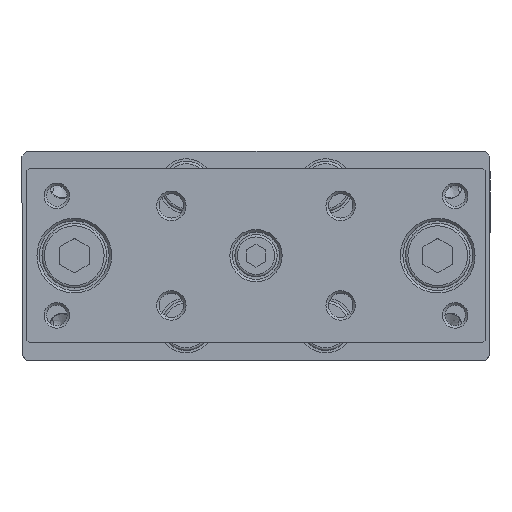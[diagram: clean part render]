
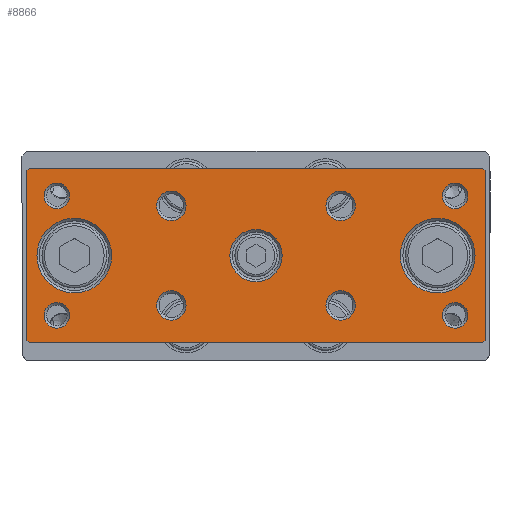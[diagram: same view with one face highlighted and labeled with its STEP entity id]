
A CAD part, top view. The second image highlights one B-rep face of the part: STEP entity #8866.
In plain terms, the highlighted planar face has unit normal (0, 0, 1).
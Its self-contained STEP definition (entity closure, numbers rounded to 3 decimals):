
#7566=CARTESIAN_POINT('',(42.976,19.784,98.2));
#7567=VERTEX_POINT('',#7566);
#7568=CARTESIAN_POINT('',(43.476,19.284,98.2));
#7569=VERTEX_POINT('',#7568);
#7570=CARTESIAN_POINT('',(42.976,19.784,98.2));
#7571=DIRECTION('',(0.707,-0.707,0.0));
#7572=VECTOR('',#7571,0.707);
#7573=LINE('',#7570,#7572);
#7574=EDGE_CURVE('',#7567,#7569,#7573,.T.);
#7708=CARTESIAN_POINT('',(-48.024,19.784,98.2));
#7709=VERTEX_POINT('',#7708);
#7718=CARTESIAN_POINT('',(42.976,19.784,98.2));
#7719=DIRECTION('',(-1.0,0.0,0.0));
#7720=VECTOR('',#7719,91.);
#7721=LINE('',#7718,#7720);
#7722=EDGE_CURVE('',#7567,#7709,#7721,.T.);
#7767=CARTESIAN_POINT('',(43.476,-14.716,98.2));
#7768=VERTEX_POINT('',#7767);
#7782=CARTESIAN_POINT('',(43.476,-14.716,98.2));
#7783=DIRECTION('',(0.0,1.0,0.0));
#7784=VECTOR('',#7783,34.0);
#7785=LINE('',#7782,#7784);
#7786=EDGE_CURVE('',#7768,#7569,#7785,.T.);
#7805=CARTESIAN_POINT('',(42.976,-15.216,98.2));
#7806=VERTEX_POINT('',#7805);
#7807=CARTESIAN_POINT('',(43.476,-14.716,98.2));
#7808=DIRECTION('',(-0.707,-0.707,0.0));
#7809=VECTOR('',#7808,0.707);
#7810=LINE('',#7807,#7809);
#7811=EDGE_CURVE('',#7768,#7806,#7810,.T.);
#7827=CARTESIAN_POINT('',(-48.024,-15.216,98.2));
#7828=VERTEX_POINT('',#7827);
#7829=CARTESIAN_POINT('',(-48.524,-14.716,98.2));
#7830=VERTEX_POINT('',#7829);
#7831=CARTESIAN_POINT('',(-48.024,-15.216,98.2));
#7832=DIRECTION('',(-0.707,0.707,0.0));
#7833=VECTOR('',#7832,0.707);
#7834=LINE('',#7831,#7833);
#7835=EDGE_CURVE('',#7828,#7830,#7834,.T.);
#7935=CARTESIAN_POINT('',(-48.024,-15.216,98.2));
#7936=DIRECTION('',(1.0,0.0,0.0));
#7937=VECTOR('',#7936,91.);
#7938=LINE('',#7935,#7937);
#7939=EDGE_CURVE('',#7828,#7806,#7938,.T.);
#8123=CARTESIAN_POINT('',(-48.524,19.284,98.2));
#8124=VERTEX_POINT('',#8123);
#8133=CARTESIAN_POINT('',(-48.524,19.284,98.2));
#8134=DIRECTION('',(0.0,-1.0,0.0));
#8135=VECTOR('',#8134,34.0);
#8136=LINE('',#8133,#8135);
#8137=EDGE_CURVE('',#8124,#7830,#8136,.T.);
#8149=CARTESIAN_POINT('',(-48.524,19.284,98.2));
#8150=DIRECTION('',(0.707,0.707,0.0));
#8151=VECTOR('',#8150,0.707);
#8152=LINE('',#8149,#8151);
#8153=EDGE_CURVE('',#8124,#7709,#8152,.T.);
#8208=CARTESIAN_POINT('',(2.726,2.284,98.2));
#8209=VERTEX_POINT('',#8208);
#8210=CARTESIAN_POINT('',(-2.524,2.284,98.2));
#8211=DIRECTION('',(0.0,0.0,1.0));
#8212=DIRECTION('',(-1.0,0.0,0.0));
#8213=AXIS2_PLACEMENT_3D('',#8210,#8211,#8212);
#8214=CIRCLE('',#8213,5.25);
#8215=EDGE_CURVE('',#8209,#8209,#8214,.T.);
#8269=CARTESIAN_POINT('',(-39.957,14.284,98.2));
#8270=VERTEX_POINT('',#8269);
#8271=CARTESIAN_POINT('',(-42.524,14.284,98.2));
#8272=DIRECTION('',(0.0,0.0,1.0));
#8273=DIRECTION('',(-1.0,0.0,0.0));
#8274=AXIS2_PLACEMENT_3D('',#8271,#8272,#8273);
#8275=CIRCLE('',#8274,2.567);
#8276=EDGE_CURVE('',#8270,#8270,#8275,.T.);
#8330=CARTESIAN_POINT('',(41.476,2.284,98.2));
#8331=VERTEX_POINT('',#8330);
#8332=CARTESIAN_POINT('',(33.976,2.284,98.2));
#8333=DIRECTION('',(0.0,0.0,1.0));
#8334=DIRECTION('',(-1.0,0.0,0.0));
#8335=AXIS2_PLACEMENT_3D('',#8332,#8333,#8334);
#8336=CIRCLE('',#8335,7.5);
#8337=EDGE_CURVE('',#8331,#8331,#8336,.T.);
#8391=CARTESIAN_POINT('',(-39.957,-9.716,98.2));
#8392=VERTEX_POINT('',#8391);
#8393=CARTESIAN_POINT('',(-42.524,-9.716,98.2));
#8394=DIRECTION('',(0.0,0.0,1.0));
#8395=DIRECTION('',(-1.0,0.0,0.0));
#8396=AXIS2_PLACEMENT_3D('',#8393,#8394,#8395);
#8397=CIRCLE('',#8396,2.567);
#8398=EDGE_CURVE('',#8392,#8392,#8397,.T.);
#8452=CARTESIAN_POINT('',(-31.524,2.284,98.2));
#8453=VERTEX_POINT('',#8452);
#8454=CARTESIAN_POINT('',(-39.024,2.284,98.2));
#8455=DIRECTION('',(0.0,0.0,1.0));
#8456=DIRECTION('',(-1.0,0.0,0.0));
#8457=AXIS2_PLACEMENT_3D('',#8454,#8455,#8456);
#8458=CIRCLE('',#8457,7.5);
#8459=EDGE_CURVE('',#8453,#8453,#8458,.T.);
#8513=CARTESIAN_POINT('',(40.043,-9.716,98.2));
#8514=VERTEX_POINT('',#8513);
#8515=CARTESIAN_POINT('',(37.476,-9.716,98.2));
#8516=DIRECTION('',(0.0,0.0,1.0));
#8517=DIRECTION('',(-1.0,0.0,0.0));
#8518=AXIS2_PLACEMENT_3D('',#8515,#8516,#8517);
#8519=CIRCLE('',#8518,2.567);
#8520=EDGE_CURVE('',#8514,#8514,#8519,.T.);
#8574=CARTESIAN_POINT('',(17.434,-7.716,98.2));
#8575=VERTEX_POINT('',#8574);
#8576=CARTESIAN_POINT('',(14.476,-7.716,98.2));
#8577=DIRECTION('',(0.0,0.0,1.0));
#8578=DIRECTION('',(-1.0,0.0,0.0));
#8579=AXIS2_PLACEMENT_3D('',#8576,#8577,#8578);
#8580=CIRCLE('',#8579,2.959);
#8581=EDGE_CURVE('',#8575,#8575,#8580,.T.);
#8635=CARTESIAN_POINT('',(40.043,14.284,98.2));
#8636=VERTEX_POINT('',#8635);
#8637=CARTESIAN_POINT('',(37.476,14.284,98.2));
#8638=DIRECTION('',(0.0,0.0,1.0));
#8639=DIRECTION('',(-1.0,0.0,0.0));
#8640=AXIS2_PLACEMENT_3D('',#8637,#8638,#8639);
#8641=CIRCLE('',#8640,2.567);
#8642=EDGE_CURVE('',#8636,#8636,#8641,.T.);
#8696=CARTESIAN_POINT('',(-16.566,-7.716,98.2));
#8697=VERTEX_POINT('',#8696);
#8698=CARTESIAN_POINT('',(-19.524,-7.716,98.2));
#8699=DIRECTION('',(0.0,0.0,1.0));
#8700=DIRECTION('',(-1.0,0.0,0.0));
#8701=AXIS2_PLACEMENT_3D('',#8698,#8699,#8700);
#8702=CIRCLE('',#8701,2.958);
#8703=EDGE_CURVE('',#8697,#8697,#8702,.T.);
#8757=CARTESIAN_POINT('',(-16.566,12.284,98.2));
#8758=VERTEX_POINT('',#8757);
#8759=CARTESIAN_POINT('',(-19.524,12.284,98.2));
#8760=DIRECTION('',(0.0,0.0,1.0));
#8761=DIRECTION('',(-1.0,0.0,0.0));
#8762=AXIS2_PLACEMENT_3D('',#8759,#8760,#8761);
#8763=CIRCLE('',#8762,2.958);
#8764=EDGE_CURVE('',#8758,#8758,#8763,.T.);
#8810=CARTESIAN_POINT('',(-48.524,2.284,98.2));
#8811=DIRECTION('',(0.0,0.0,1.0));
#8812=DIRECTION('',(1.0,0.0,0.0));
#8813=AXIS2_PLACEMENT_3D('',#8810,#8811,#8812);
#8814=PLANE('',#8813);
#8815=ORIENTED_EDGE('',*,*,#8153,.F.);
#8816=ORIENTED_EDGE('',*,*,#8137,.T.);
#8817=ORIENTED_EDGE('',*,*,#7835,.F.);
#8818=ORIENTED_EDGE('',*,*,#7939,.T.);
#8819=ORIENTED_EDGE('',*,*,#7811,.F.);
#8820=ORIENTED_EDGE('',*,*,#7786,.T.);
#8821=ORIENTED_EDGE('',*,*,#7574,.F.);
#8822=ORIENTED_EDGE('',*,*,#7722,.T.);
#8823=EDGE_LOOP('',(#8815,#8816,#8817,#8818,#8819,#8820,#8821,#8822));
#8824=FACE_OUTER_BOUND('',#8823,.T.);
#8825=ORIENTED_EDGE('',*,*,#8764,.F.);
#8826=EDGE_LOOP('',(#8825));
#8827=FACE_BOUND('',#8826,.T.);
#8828=ORIENTED_EDGE('',*,*,#8642,.F.);
#8829=EDGE_LOOP('',(#8828));
#8830=FACE_BOUND('',#8829,.T.);
#8831=ORIENTED_EDGE('',*,*,#8520,.F.);
#8832=EDGE_LOOP('',(#8831));
#8833=FACE_BOUND('',#8832,.T.);
#8834=ORIENTED_EDGE('',*,*,#8398,.F.);
#8835=EDGE_LOOP('',(#8834));
#8836=FACE_BOUND('',#8835,.T.);
#8837=ORIENTED_EDGE('',*,*,#8276,.F.);
#8838=EDGE_LOOP('',(#8837));
#8839=FACE_BOUND('',#8838,.T.);
#8840=ORIENTED_EDGE('',*,*,#8215,.F.);
#8841=EDGE_LOOP('',(#8840));
#8842=FACE_BOUND('',#8841,.T.);
#8843=ORIENTED_EDGE('',*,*,#8337,.F.);
#8844=EDGE_LOOP('',(#8843));
#8845=FACE_BOUND('',#8844,.T.);
#8846=ORIENTED_EDGE('',*,*,#8459,.F.);
#8847=EDGE_LOOP('',(#8846));
#8848=FACE_BOUND('',#8847,.T.);
#8849=ORIENTED_EDGE('',*,*,#8581,.F.);
#8850=EDGE_LOOP('',(#8849));
#8851=FACE_BOUND('',#8850,.T.);
#8852=ORIENTED_EDGE('',*,*,#8703,.F.);
#8853=EDGE_LOOP('',(#8852));
#8854=FACE_BOUND('',#8853,.T.);
#8855=CARTESIAN_POINT('',(17.434,12.284,98.2));
#8856=VERTEX_POINT('',#8855);
#8857=CARTESIAN_POINT('',(14.476,12.284,98.2));
#8858=DIRECTION('',(0.0,0.0,1.0));
#8859=DIRECTION('',(-1.0,0.0,0.0));
#8860=AXIS2_PLACEMENT_3D('',#8857,#8858,#8859);
#8861=CIRCLE('',#8860,2.959);
#8862=EDGE_CURVE('',#8856,#8856,#8861,.T.);
#8863=ORIENTED_EDGE('',*,*,#8862,.F.);
#8864=EDGE_LOOP('',(#8863));
#8865=FACE_BOUND('',#8864,.T.);
#8866=ADVANCED_FACE('',(#8824,#8827,#8830,#8833,#8836,#8839,#8842,#8845,#8848,#8851,#8854,#8865),#8814,.T.);
